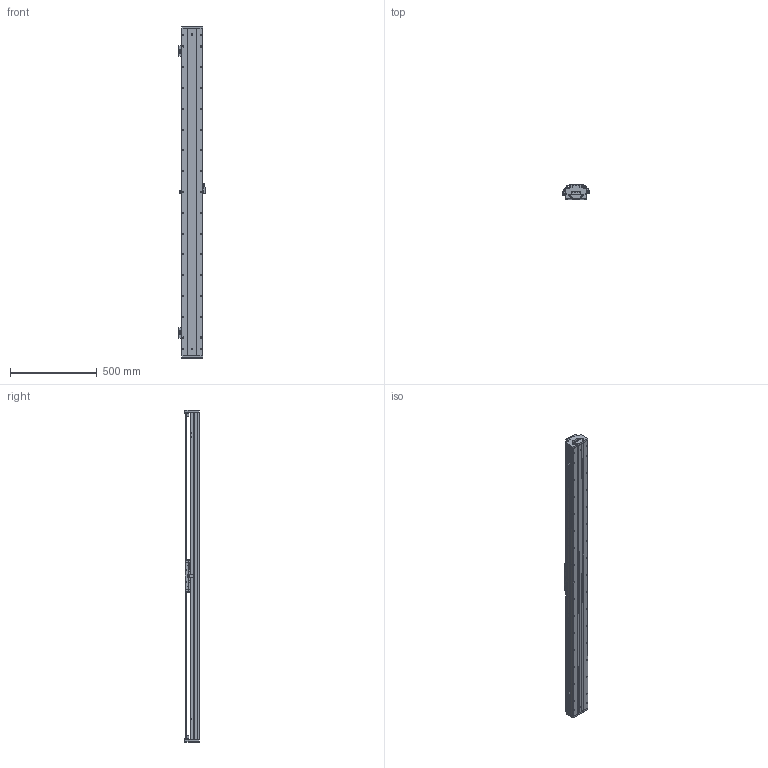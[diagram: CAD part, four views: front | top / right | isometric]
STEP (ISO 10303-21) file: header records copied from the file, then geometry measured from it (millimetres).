
FILE_DESCRIPTION (( 'STEP AP203' ), '1' );
FILE_NAME ('DKW120-B2-W060（T1620-L005-0.2）.STEP', '2021-09-02T06:45:48', ( '微软用户' ), ( '微软中国' ), 'SwSTEP 2.0', 'SolidWorks 2018', '' );
FILE_SCHEMA (( 'CONFIG_CONTROL_DESIGN' ));
Length unit declared in the file: millimetre
Products named in the file (20): RUS嫖掑郪璃; 10940-0001-004-00 120詩湍裔啣; DKW119-RU-DTJ-00 RU2黍杅芛盓殤; 砎蝶猾沭; 10980-0001-003-00 嫖萇羲壽嘐隅釱; 12160-0000-003-00 DKW120詩湍嶺輸; DKW-SG-GYP-H-00 嫖萇覜茼え; 12160-0000-004-00  DKW120詩湍揤輸; DKW120-B15-T300-DZ-00 菁釱; EE_SX674A; DKW120 单轴模组-拉钢带组件; MSB15-DG-U; B2-W060_00; BKMA01-W060-TRL280; 06652-0001-001-00 DKW120傷啣; DKW120-B2-W060（T1620-L005-0.2）; RUS嫖掑喜; 06652-0001-004-00 DKW120嶺輸菜輸; Ru2; DKW-HXJ-JY-00 遣喳砎蝶
Assembly tree (33 placements, depth 3):
  DKW120-B2-W060（T1620-L005-0.2）
    DKW120-B15-T300-DZ-00 菁釱
    MSB15-DG-U  x2
    DKW120 单轴模组-拉钢带组件
      06652-0001-001-00 DKW120傷啣  x2
      06652-0001-004-00 DKW120嶺輸菜輸  x4
      DKW-HXJ-JY-00 遣喳砎蝶  x4
      10940-0001-004-00 120詩湍裔啣
      砎蝶猾沭  x2
      12160-0000-003-00 DKW120詩湍嶺輸  x2
      12160-0000-004-00  DKW120詩湍揤輸  x2
    BKMA01-W060-TRL280
    RUS嫖掑郪璃
      RUS嫖掑喜
      Ru2
    DKW119-RU-DTJ-00 RU2黍杅芛盓殤
    10980-0001-003-00 嫖萇羲壽嘐隅釱  x2
    DKW-SG-GYP-H-00 嫖萇覜茼え
    EE_SX674A  x3
    B2-W060_00
Bounding box: 154.1 x 84 x 1916 mm (x, y, z)
Volume: 6652190.1 mm3; surface area: 2636286.4 mm2
Topology: 41 solids, 90 shells, 4248 faces, 11706 edges, 7545 vertices
Faces by surface type: plane 2263, cylinder 1406, cone 332, bspline 247
Entity records: 136774 total; most frequent: CARTESIAN_POINT 47753, ORIENTED_EDGE 18505, DIRECTION 17152, EDGE_CURVE 9293, VERTEX_POINT 6108, AXIS2_PLACEMENT_3D 5738, VECTOR 5676, LINE 5676
